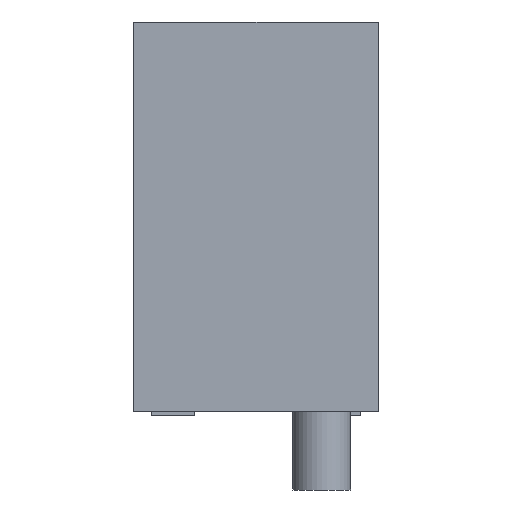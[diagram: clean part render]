
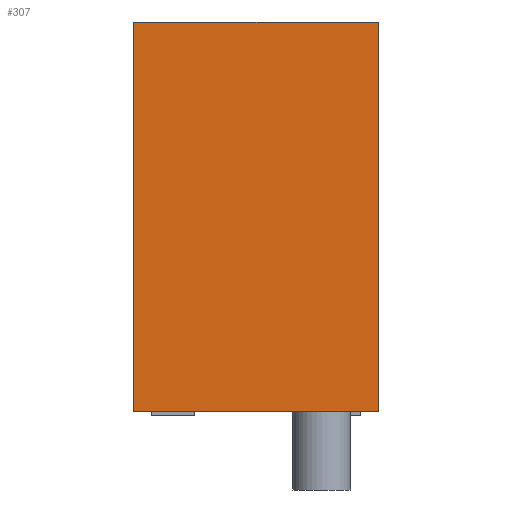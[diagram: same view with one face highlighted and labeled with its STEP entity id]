
A CAD part, left-side view. The second image highlights one B-rep face of the part: STEP entity #307.
In plain terms, the highlighted planar face has unit normal (-1, 0, 0).
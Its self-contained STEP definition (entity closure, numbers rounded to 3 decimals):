
#44 = EDGE_CURVE('',#45,#47,#49,.T.);
#45 = VERTEX_POINT('',#46);
#46 = CARTESIAN_POINT('',(-23.,2.8,0.));
#47 = VERTEX_POINT('',#48);
#48 = CARTESIAN_POINT('',(-23.,2.8,8.905));
#49 = SURFACE_CURVE('',#50,(#54,#66),.PCURVE_S1.);
#50 = LINE('',#51,#52);
#51 = CARTESIAN_POINT('',(-23.,2.8,0.));
#52 = VECTOR('',#53,1.);
#53 = DIRECTION('',(0.,0.,1.));
#54 = PCURVE('',#55,#60);
#55 = PLANE('',#56);
#56 = AXIS2_PLACEMENT_3D('',#57,#58,#59);
#57 = CARTESIAN_POINT('',(-23.,2.8,0.));
#58 = DIRECTION('',(0.,1.,0.));
#59 = DIRECTION('',(1.,0.,0.));
#60 = DEFINITIONAL_REPRESENTATION('',(#61),#65);
#61 = LINE('',#62,#63);
#62 = CARTESIAN_POINT('',(0.,0.));
#63 = VECTOR('',#64,1.);
#64 = DIRECTION('',(0.,-1.));
#65 = ( GEOMETRIC_REPRESENTATION_CONTEXT(2) 
PARAMETRIC_REPRESENTATION_CONTEXT() REPRESENTATION_CONTEXT('2D SPACE',''
  ) );
#66 = PCURVE('',#67,#72);
#67 = PLANE('',#68);
#68 = AXIS2_PLACEMENT_3D('',#69,#70,#71);
#69 = CARTESIAN_POINT('',(-23.,-2.8,0.));
#70 = DIRECTION('',(-1.,0.,0.));
#71 = DIRECTION('',(0.,1.,0.));
#72 = DEFINITIONAL_REPRESENTATION('',(#73),#77);
#73 = LINE('',#74,#75);
#74 = CARTESIAN_POINT('',(5.6,0.));
#75 = VECTOR('',#76,1.);
#76 = DIRECTION('',(0.,-1.));
#77 = ( GEOMETRIC_REPRESENTATION_CONTEXT(2) 
PARAMETRIC_REPRESENTATION_CONTEXT() REPRESENTATION_CONTEXT('2D SPACE',''
  ) );
#95 = PLANE('',#96);
#96 = AXIS2_PLACEMENT_3D('',#97,#98,#99);
#97 = CARTESIAN_POINT('',(0.,0.,8.905));
#98 = DIRECTION('',(0.,-0.,-1.));
#99 = DIRECTION('',(-1.,0.,0.));
#149 = PLANE('',#150);
#150 = AXIS2_PLACEMENT_3D('',#151,#152,#153);
#151 = CARTESIAN_POINT('',(0.,0.,0.));
#152 = DIRECTION('',(0.,-0.,-1.));
#153 = DIRECTION('',(-1.,0.,0.));
#204 = PLANE('',#205);
#205 = AXIS2_PLACEMENT_3D('',#206,#207,#208);
#206 = CARTESIAN_POINT('',(23.,-2.8,0.));
#207 = DIRECTION('',(0.,-1.,0.));
#208 = DIRECTION('',(-1.,0.,0.));
#242 = VERTEX_POINT('',#243);
#243 = CARTESIAN_POINT('',(-23.,-2.8,8.905));
#264 = EDGE_CURVE('',#265,#242,#267,.T.);
#265 = VERTEX_POINT('',#266);
#266 = CARTESIAN_POINT('',(-23.,-2.8,0.));
#267 = SURFACE_CURVE('',#268,(#272,#279),.PCURVE_S1.);
#268 = LINE('',#269,#270);
#269 = CARTESIAN_POINT('',(-23.,-2.8,0.));
#270 = VECTOR('',#271,1.);
#271 = DIRECTION('',(0.,0.,1.));
#272 = PCURVE('',#204,#273);
#273 = DEFINITIONAL_REPRESENTATION('',(#274),#278);
#274 = LINE('',#275,#276);
#275 = CARTESIAN_POINT('',(46.,0.));
#276 = VECTOR('',#277,1.);
#277 = DIRECTION('',(0.,-1.));
#278 = ( GEOMETRIC_REPRESENTATION_CONTEXT(2) 
PARAMETRIC_REPRESENTATION_CONTEXT() REPRESENTATION_CONTEXT('2D SPACE',''
  ) );
#279 = PCURVE('',#67,#280);
#280 = DEFINITIONAL_REPRESENTATION('',(#281),#285);
#281 = LINE('',#282,#283);
#282 = CARTESIAN_POINT('',(0.,0.));
#283 = VECTOR('',#284,1.);
#284 = DIRECTION('',(0.,-1.));
#285 = ( GEOMETRIC_REPRESENTATION_CONTEXT(2) 
PARAMETRIC_REPRESENTATION_CONTEXT() REPRESENTATION_CONTEXT('2D SPACE',''
  ) );
#307 = ADVANCED_FACE('',(#308),#67,.T.);
#308 = FACE_BOUND('',#309,.T.);
#309 = EDGE_LOOP('',(#310,#311,#332,#333));
#310 = ORIENTED_EDGE('',*,*,#264,.T.);
#311 = ORIENTED_EDGE('',*,*,#312,.T.);
#312 = EDGE_CURVE('',#242,#47,#313,.T.);
#313 = SURFACE_CURVE('',#314,(#318,#325),.PCURVE_S1.);
#314 = LINE('',#315,#316);
#315 = CARTESIAN_POINT('',(-23.,-2.8,8.905));
#316 = VECTOR('',#317,1.);
#317 = DIRECTION('',(0.,1.,0.));
#318 = PCURVE('',#67,#319);
#319 = DEFINITIONAL_REPRESENTATION('',(#320),#324);
#320 = LINE('',#321,#322);
#321 = CARTESIAN_POINT('',(0.,-8.905));
#322 = VECTOR('',#323,1.);
#323 = DIRECTION('',(1.,0.));
#324 = ( GEOMETRIC_REPRESENTATION_CONTEXT(2) 
PARAMETRIC_REPRESENTATION_CONTEXT() REPRESENTATION_CONTEXT('2D SPACE',''
  ) );
#325 = PCURVE('',#95,#326);
#326 = DEFINITIONAL_REPRESENTATION('',(#327),#331);
#327 = LINE('',#328,#329);
#328 = CARTESIAN_POINT('',(23.,-2.8));
#329 = VECTOR('',#330,1.);
#330 = DIRECTION('',(0.,1.));
#331 = ( GEOMETRIC_REPRESENTATION_CONTEXT(2) 
PARAMETRIC_REPRESENTATION_CONTEXT() REPRESENTATION_CONTEXT('2D SPACE',''
  ) );
#332 = ORIENTED_EDGE('',*,*,#44,.F.);
#333 = ORIENTED_EDGE('',*,*,#334,.F.);
#334 = EDGE_CURVE('',#265,#45,#335,.T.);
#335 = SURFACE_CURVE('',#336,(#340,#347),.PCURVE_S1.);
#336 = LINE('',#337,#338);
#337 = CARTESIAN_POINT('',(-23.,-2.8,0.));
#338 = VECTOR('',#339,1.);
#339 = DIRECTION('',(0.,1.,0.));
#340 = PCURVE('',#67,#341);
#341 = DEFINITIONAL_REPRESENTATION('',(#342),#346);
#342 = LINE('',#343,#344);
#343 = CARTESIAN_POINT('',(0.,0.));
#344 = VECTOR('',#345,1.);
#345 = DIRECTION('',(1.,0.));
#346 = ( GEOMETRIC_REPRESENTATION_CONTEXT(2) 
PARAMETRIC_REPRESENTATION_CONTEXT() REPRESENTATION_CONTEXT('2D SPACE',''
  ) );
#347 = PCURVE('',#149,#348);
#348 = DEFINITIONAL_REPRESENTATION('',(#349),#353);
#349 = LINE('',#350,#351);
#350 = CARTESIAN_POINT('',(23.,-2.8));
#351 = VECTOR('',#352,1.);
#352 = DIRECTION('',(0.,1.));
#353 = ( GEOMETRIC_REPRESENTATION_CONTEXT(2) 
PARAMETRIC_REPRESENTATION_CONTEXT() REPRESENTATION_CONTEXT('2D SPACE',''
  ) );
